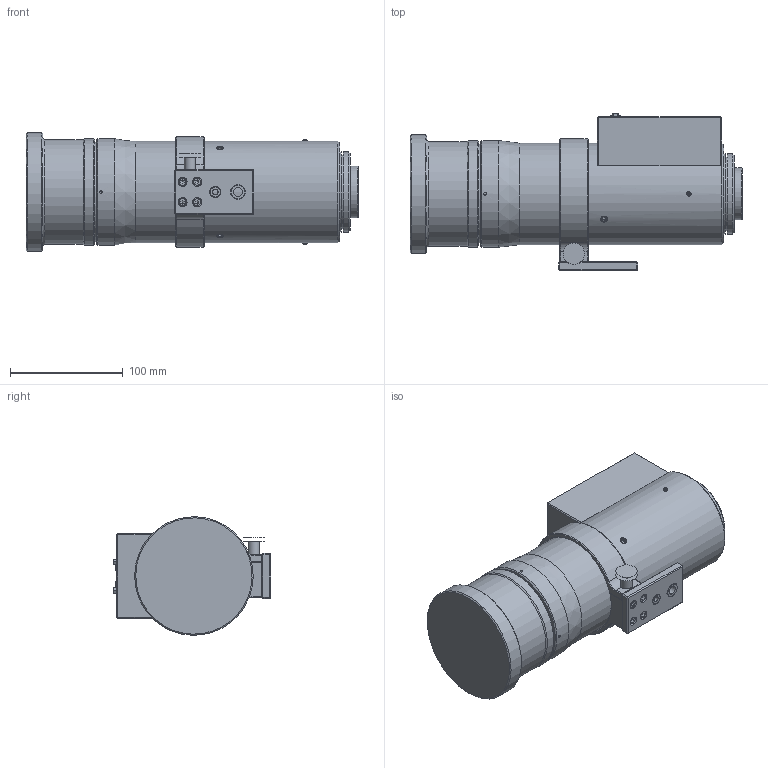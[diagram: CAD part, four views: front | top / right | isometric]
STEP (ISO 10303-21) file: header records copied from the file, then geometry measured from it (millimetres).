
FILE_DESCRIPTION((''),'2;1');
FILE_NAME('C:\Documents and Settings\tbosotti\Desktop\C0245_009.stp','2014-04-28T11:48:41',('tbosotti'),(''),'Autodesk Inventor 2010','Autodesk Inventor 2010','');
FILE_SCHEMA(('AUTOMOTIVE_DESIGN { 1 0 10303 214 1 1 1 1 }'));
Length unit declared in the file: millimetre
Products named in the file (2): C0245_009_000.iam (Livello di dettaglio sostituto1); C0245_009
Assembly tree (1 placements, depth 2):
  C0245_009_000.iam (Livello di dettaglio sostituto1)
    C0245_009
Bounding box: 293.95 x 139.39 x 104.95 mm (x, y, z)
Surface area: 191167.4 mm2 (no closed solid volume)
Topology: 0 solids, 52 shells, 195 faces, 835 edges, 666 vertices
Faces by surface type: plane 104, cone 32, cylinder 28, bspline 26, sphere 5
Full cylindrical faces by diameter (mm): 4 x2, 4.978 x1, 5 x1, 7.798 x1, 10 x1, 46 x1, 65.5 x1, 71 x1, 71.5 x1, 88 x2, 89.8 x2, 93 x1, 94.4 x2, 105 x1
Entity records: 10079 total; most frequent: CARTESIAN_POINT 3415, DIRECTION 1221, ORIENTED_EDGE 990, EDGE_CURVE 744, VERTEX_POINT 646, AXIS2_PLACEMENT_3D 456, EDGE_LOOP 323, VECTOR 309
